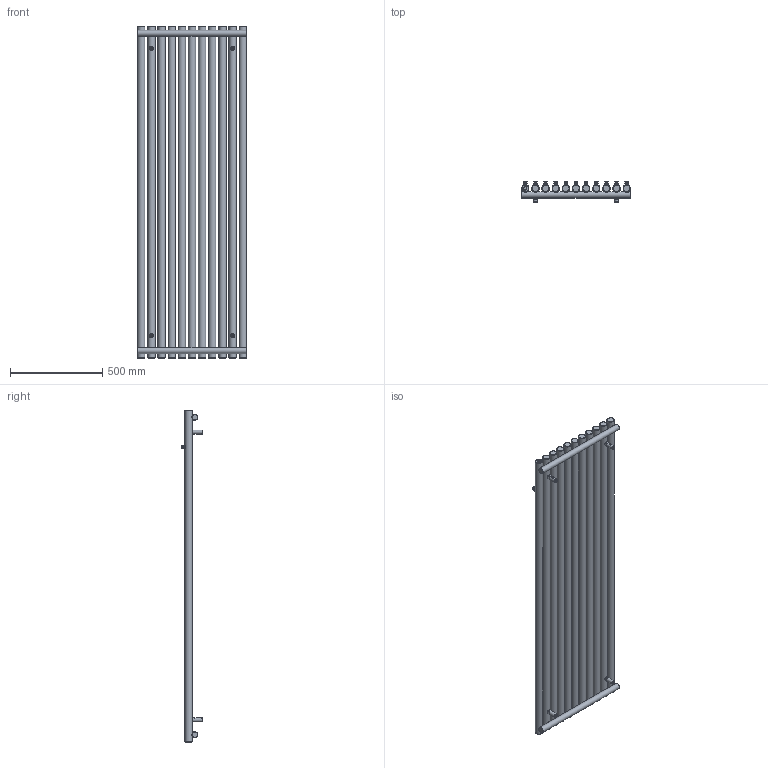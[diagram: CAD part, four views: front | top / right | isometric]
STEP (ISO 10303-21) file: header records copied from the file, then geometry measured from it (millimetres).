
FILE_DESCRIPTION(/* description */ (''),/* implementation_level */ '2;1');
FILE_NAME(/* name */ 'Z:\R\G\P\RGP116 - Grzejniki Geyser\Work\Inventor\Circolo (Rolo V, Rolo H)\ROLO-HANGER\Marketing\Bryły\Zaokrąglone\WGROW180059-SX-CK-(Z).stp',/* time_stamp */ '2024-02-02T13:22:37+01:00',/* author */ ('NowAd'),/* organization */ (''),/* preprocessor_version */ 'ST-DEVELOPER v17.2',/* originating_system */ 'Autodesk Inventor 2019',/* authorisation */ '');
FILE_SCHEMA (('AUTOMOTIVE_DESIGN { 1 0 10303 214 3 1 1 }'));
Length unit declared in the file: millimetre
Products named in the file (3): WGROR180059-SX-CK-(Z); PGTHR180059-SX-MK-(K); CK-V-fi40 marketing
Assembly tree (5 placements, depth 2):
  WGROR180059-SX-CK-(Z)
    PGTHR180059-SX-MK-(K)
    CK-V-fi40 marketing  x4
Bounding box: 590 x 116.5 x 1800 mm (x, y, z)
Volume: 25919711.1 mm3; surface area: 2670076.8 mm2
Topology: 5 solids, 5 shells, 493 faces, 1246 edges, 851 vertices
Faces by surface type: plane 178, cylinder 113, torus 109, cone 60, bspline 33
Full cylindrical faces by diameter (mm): 4.134 x4, 4.48 x4, 6.4 x4, 10 x4, 12 x4, 14 x11, 15.834 x4, 16 x4, 18.631 x3, 20 x22, 22 x4, 32 x2, 40 x11
Entity records: 16120 total; most frequent: CARTESIAN_POINT 8293, DIRECTION 1733, ORIENTED_EDGE 1552, AXIS2_PLACEMENT_3D 804, EDGE_CURVE 776, VERTEX_POINT 544, CIRCLE 511, EDGE_LOOP 406
